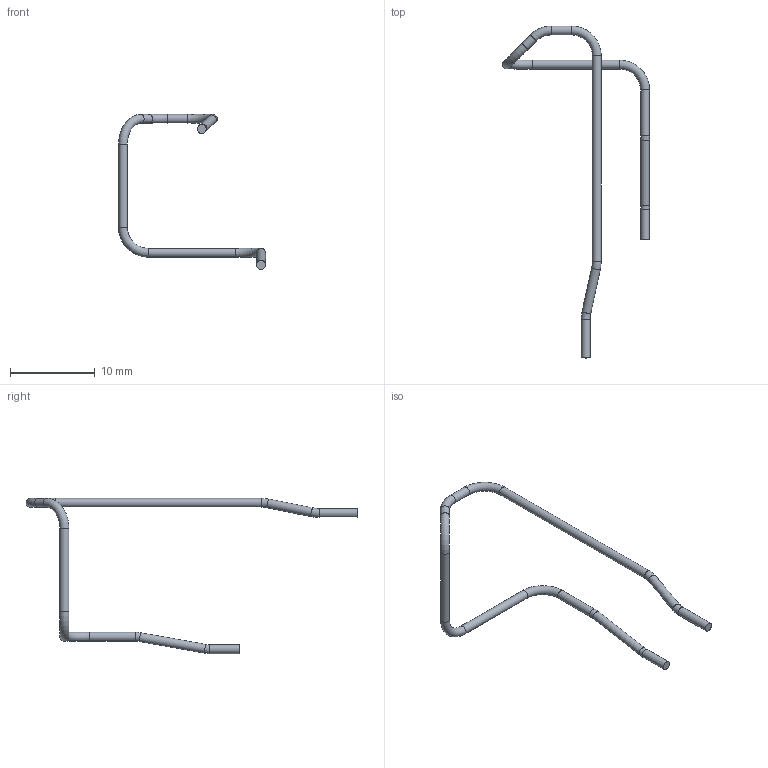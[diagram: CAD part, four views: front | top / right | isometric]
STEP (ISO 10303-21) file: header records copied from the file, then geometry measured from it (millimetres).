
FILE_DESCRIPTION(('Open CASCADE Model'),'2;1');
FILE_NAME('R36_J10_CK_PIGTAIL_1_OD1p05_R3','2026-09-15T14:09:12',( 'Author'),('Open CASCADE'),'Open CASCADE STEP processor 7.9', 'build123d','Unknown');
FILE_SCHEMA(('AUTOMOTIVE_DESIGN { 1 0 10303 214 1 1 1 1 }'));
Length unit declared in the file: millimetre
Products named in the file (1): R36_J10_CK_PIGTAIL_1_OD1p05_R3
Bounding box: 17.35 x 39.17 x 18.31 mm (x, y, z)
Volume: 85.5 mm3; surface area: 327.5 mm2
Topology: 1 solids, 1 shells, 21 faces, 39 edges, 20 vertices
Faces by surface type: cylinder 10, torus 9, plane 2
Full cylindrical faces by diameter (mm): 1.05 x10
Entity records: 998 total; most frequent: CARTESIAN_POINT 196, DIRECTION 153, ORIENTED_EDGE 78, PCURVE 78, DEFINITIONAL_REPRESENTATION 78, AXIS2_PLACEMENT_3D 51, LINE 49, VECTOR 49
